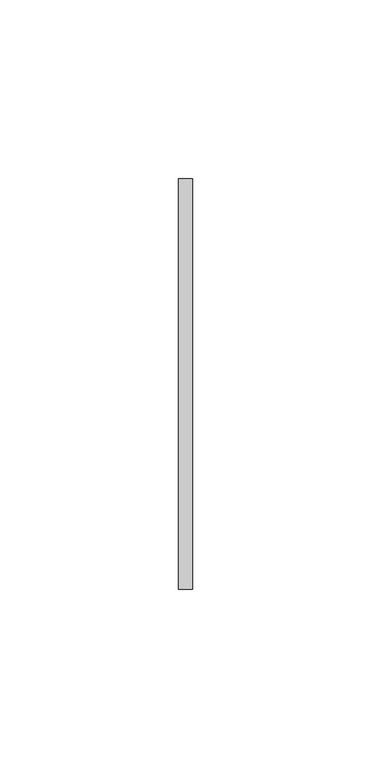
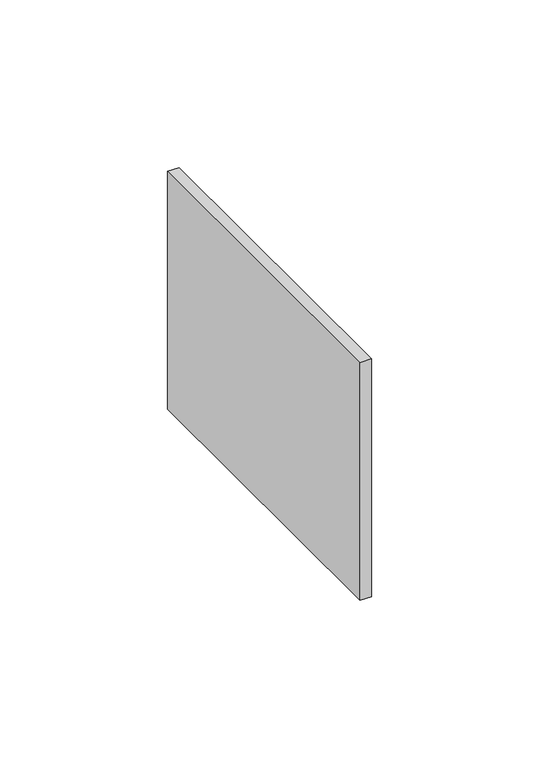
"""IFC4 building model written with IfcOpenShell, lengths in millimetres: proxy geometry, JUEFV_Juction_H4-Fibertrav : Fibertrav JUEFV 4."""

from ifc_helpers import new_model, si_unit, origin, origin_with_axes, place, context, project, spatial, polyline, outline, extrude, source, transform, mapped, element, save


def generic_models_2f859a22(model_context):
    return source(origin(), model_context, "Body", "SweptSolid", [
        extrude(outline(polyline([(4.0, -57.5), (0.0, -57.5), (0.0, 57.5), (4.0, 57.5), (4.0, -57.5)])), origin_with_axes(), (0.0, 0.0, 1.0), 86.6),
    ])


if __name__ == "__main__":
    model = new_model("IFC4")
    model_context = context("Model", 3, world=origin())
    ifc_project = project(units=[si_unit("LENGTHUNIT", "METRE", prefix="MILLI")], contexts=[model_context])
    site = spatial("IfcSite", under=ifc_project)
    building = spatial("IfcBuilding", under=site)
    placement = place(None, origin())
    generic_models_shape = generic_models_2f859a22(model_context)
    element("IfcBuildingElementProxy", 1, Name="JUEFV_Juction_H4-Fibertrav : Fibertrav JUEFV 4", ObjectType="JUEFV_Juction_H4-Fibertrav : Fibertrav JUEFV 4", at=placement, inside=building, context=model_context, shape_type="MappedRepresentation", body=[
        mapped(generic_models_shape, transform((0.0, 0.0, 0.0), x_axis=(1.0, 0.0, 0.0), y_axis=(0.0, 1.0, 0.0), z_axis=(0.0, 0.0, 1.0))),
    ])
    save(model, "model.ifc")
